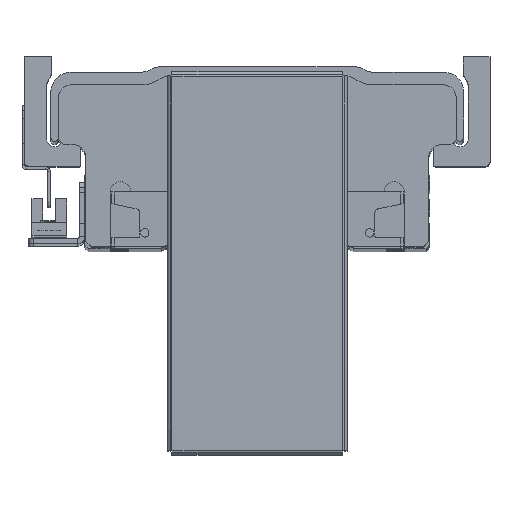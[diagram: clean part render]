
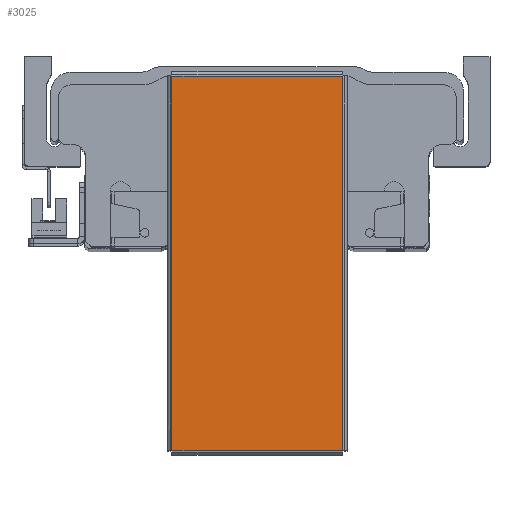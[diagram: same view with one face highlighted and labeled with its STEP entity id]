
A CAD part, top view. The second image highlights one B-rep face of the part: STEP entity #3025.
In plain terms, the highlighted planar face has unit normal (0, 0, 1) as drawn and (0, -1, 0) by its records, which use the part's own axes.
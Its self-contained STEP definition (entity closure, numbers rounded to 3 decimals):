
#2329 = CARTESIAN_POINT ( 'NONE',  ( 73.263, -1., -33.363 ) ) ;
#2336 = CARTESIAN_POINT ( 'NONE',  ( -73.263, -1., 33.363 ) ) ;
#2357 = CARTESIAN_POINT ( 'NONE',  ( -73.263, -1., -33.363 ) ) ;
#2536 = CARTESIAN_POINT ( 'NONE',  ( 73.263, -1., 33.363 ) ) ;
#3025 = ADVANCED_FACE ( 'NONE', ( #33523 ), #17156, .F. ) ;
#10395 = AXIS2_PLACEMENT_3D ( 'NONE', #17158, #17137, #17142 ) ;
#12855 = VERTEX_POINT ( 'NONE', #2357 ) ;
#12912 = VERTEX_POINT ( 'NONE', #2329 ) ;
#12934 = VERTEX_POINT ( 'NONE', #2336 ) ;
#17137 = DIRECTION ( 'NONE',  ( 0., 1., 0. ) ) ;
#17142 = DIRECTION ( 'NONE',  ( 0., 0., 1. ) ) ;
#17156 = PLANE ( 'NONE',  #10395 ) ;
#17158 = CARTESIAN_POINT ( 'NONE',  ( 0., -1., 0. ) ) ;
#21276 = VERTEX_POINT ( 'NONE', #2536 ) ;
#24765 = ORIENTED_EDGE ( 'NONE', *, *, #30559, .T. ) ;
#24768 = ORIENTED_EDGE ( 'NONE', *, *, #30646, .T. ) ;
#24797 = ORIENTED_EDGE ( 'NONE', *, *, #30624, .T. ) ;
#24972 = ORIENTED_EDGE ( 'NONE', *, *, #30644, .T. ) ;
#30559 = EDGE_CURVE ( 'NONE', #21276, #12934, #46677, .T. ) ;
#30624 = EDGE_CURVE ( 'NONE', #12855, #12912, #46693, .T. ) ;
#30644 = EDGE_CURVE ( 'NONE', #12934, #12855, #46740, .T. ) ;
#30646 = EDGE_CURVE ( 'NONE', #12912, #21276, #46728, .T. ) ;
#33523 = FACE_OUTER_BOUND ( 'NONE', #37688, .T. ) ;
#37688 = EDGE_LOOP ( 'NONE', ( #24765, #24972, #24797, #24768 ) ) ;
#45888 = CARTESIAN_POINT ( 'NONE',  ( 73.293, -1., 33.363 ) ) ;
#45893 = DIRECTION ( 'NONE',  ( -1., 0., 0. ) ) ;
#46233 = CARTESIAN_POINT ( 'NONE',  ( -73.293, -1., -33.363 ) ) ;
#46325 = DIRECTION ( 'NONE',  ( 1., 0., 0. ) ) ;
#46350 = CARTESIAN_POINT ( 'NONE',  ( -73.263, -1., 33.393 ) ) ;
#46381 = DIRECTION ( 'NONE',  ( 0., 0., -1. ) ) ;
#46417 = CARTESIAN_POINT ( 'NONE',  ( 73.263, -1., -33.393 ) ) ;
#46421 = DIRECTION ( 'NONE',  ( 0., 0., 1. ) ) ;
#46645 = VECTOR ( 'NONE', #45893, 1000. ) ;
#46677 = LINE ( 'NONE', #45888, #46645 ) ;
#46693 = LINE ( 'NONE', #46233, #46737 ) ;
#46719 = VECTOR ( 'NONE', #46381, 1000. ) ;
#46728 = LINE ( 'NONE', #46417, #46730 ) ;
#46730 = VECTOR ( 'NONE', #46421, 1000. ) ;
#46737 = VECTOR ( 'NONE', #46325, 1000. ) ;
#46740 = LINE ( 'NONE', #46350, #46719 ) ;
